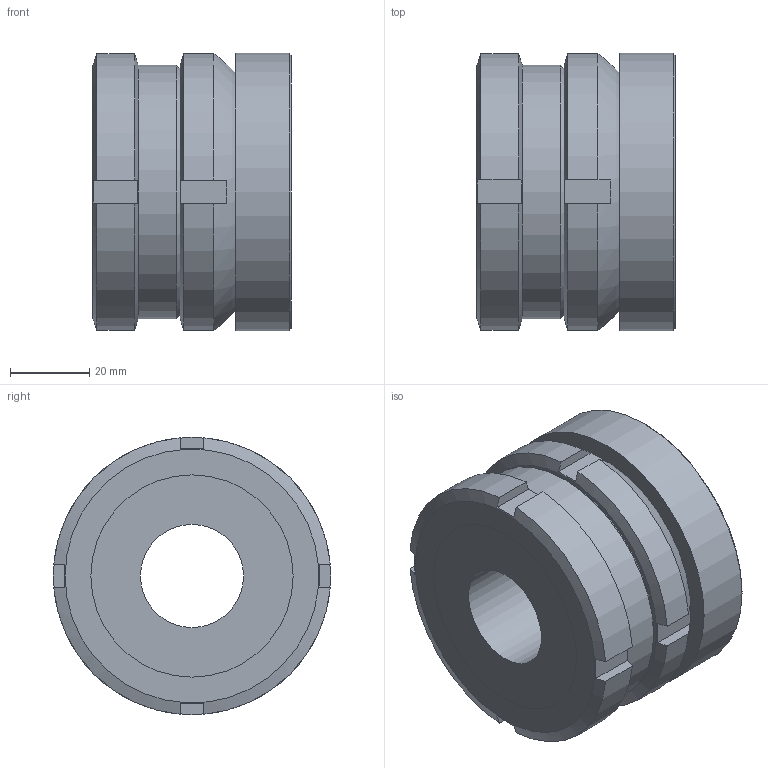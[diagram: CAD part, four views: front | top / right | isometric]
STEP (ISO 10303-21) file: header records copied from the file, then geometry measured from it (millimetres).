
FILE_DESCRIPTION( ( 'STEP AP203' ), '1' );
FILE_NAME( 'C:/Temp/Ganter_Step_05_03_2020/data/3_2/gn350_2/gn_350_2_st/Levelling set GN 350.2-70-26-50-ST (0-0).stp', '2020-03-13T05:27:58', ( 'License CC BY-ND 4.0' ), ( 'CADENAS' ), ' ', 'PARTsolutions', ' ' );
FILE_SCHEMA( ( 'CONFIG_CONTROL_DESIGN' ) );
Length unit declared in the file: millimetre
Products named in the file (4): Levelling set GN 350.2-70-26-50-ST (0-0); _Levelling set GN 350.2-70-26-50-ST-G; _Levelling set GN 350.2-70-26-50-ST-K; _Levelling set GN 350.2-70-26-50-ST-P(0)
Assembly tree (3 placements, depth 2):
  Levelling set GN 350.2-70-26-50-ST (0-0)
    _Levelling set GN 350.2-70-26-50-ST-G
    _Levelling set GN 350.2-70-26-50-ST-K
    _Levelling set GN 350.2-70-26-50-ST-P(0)
Bounding box: 50 x 70 x 70 mm (x, y, z)
Volume: 150085.3 mm3; surface area: 39288.7 mm2
Topology: 3 solids, 3 shells, 62 faces, 149 edges, 99 vertices
Faces by surface type: plane 36, cylinder 19, cone 5, sphere 2
Full cylindrical faces by diameter (mm): 26 x1, 40 x1, 43.529 x1, 44.5 x1, 48.376 x1, 49 x1, 50 x1, 51 x2, 64 x1, 70 x1
Entity records: 1925 total; most frequent: CARTESIAN_POINT 462, DIRECTION 276, ORIENTED_EDGE 248, EDGE_CURVE 124, AXIS2_PLACEMENT_3D 122, EDGE_LOOP 92, VERTEX_POINT 92, FACE_OUTER_BOUND 75
